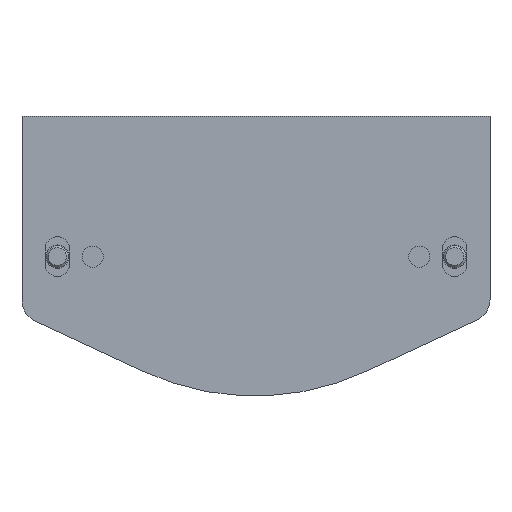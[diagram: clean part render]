
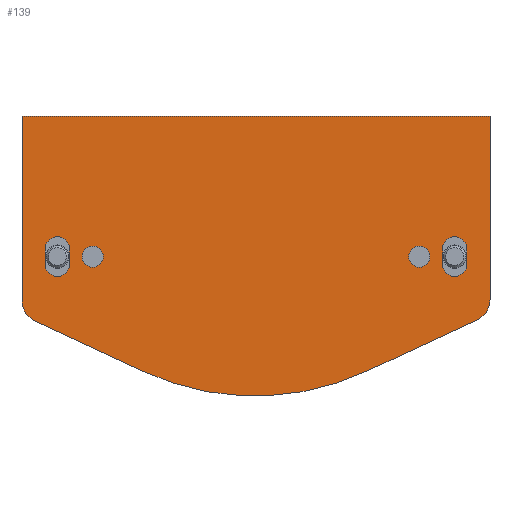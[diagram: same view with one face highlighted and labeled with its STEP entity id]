
A CAD part, front view. The second image highlights one B-rep face of the part: STEP entity #139.
In plain terms, the highlighted planar face has unit normal (0, -1, 0).
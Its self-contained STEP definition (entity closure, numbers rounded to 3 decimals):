
#139 = ADVANCED_FACE( '', ( #306, #307, #308, #309, #310 ), #311, .F. );
#306 = FACE_BOUND( '', #506, .T. );
#307 = FACE_BOUND( '', #507, .T. );
#308 = FACE_BOUND( '', #508, .T. );
#309 = FACE_BOUND( '', #509, .T. );
#310 = FACE_OUTER_BOUND( '', #510, .T. );
#311 = PLANE( '', #511 );
#506 = EDGE_LOOP( '', ( #1025 ) );
#507 = EDGE_LOOP( '', ( #1026 ) );
#508 = EDGE_LOOP( '', ( #1027, #1028, #1029, #1030 ) );
#509 = EDGE_LOOP( '', ( #1031, #1032, #1033, #1034 ) );
#510 = EDGE_LOOP( '', ( #1035, #1036, #1037, #1038, #1039, #1040, #1041, #1042, #1043, #1044 ) );
#511 = AXIS2_PLACEMENT_3D( '', #1045, #1046, #1047 );
#1025 = ORIENTED_EDGE( '', *, *, #1242, .T. );
#1026 = ORIENTED_EDGE( '', *, *, #1244, .T. );
#1027 = ORIENTED_EDGE( '', *, *, #1320, .T. );
#1028 = ORIENTED_EDGE( '', *, *, #1319, .T. );
#1029 = ORIENTED_EDGE( '', *, *, #1317, .T. );
#1030 = ORIENTED_EDGE( '', *, *, #1315, .T. );
#1031 = ORIENTED_EDGE( '', *, *, #1328, .T. );
#1032 = ORIENTED_EDGE( '', *, *, #1327, .T. );
#1033 = ORIENTED_EDGE( '', *, *, #1325, .T. );
#1034 = ORIENTED_EDGE( '', *, *, #1323, .T. );
#1035 = ORIENTED_EDGE( '', *, *, #1371, .T. );
#1036 = ORIENTED_EDGE( '', *, *, #1345, .F. );
#1037 = ORIENTED_EDGE( '', *, *, #1349, .F. );
#1038 = ORIENTED_EDGE( '', *, *, #1352, .F. );
#1039 = ORIENTED_EDGE( '', *, *, #1365, .T. );
#1040 = ORIENTED_EDGE( '', *, *, #1372, .F. );
#1041 = ORIENTED_EDGE( '', *, *, #1355, .F. );
#1042 = ORIENTED_EDGE( '', *, *, #1359, .F. );
#1043 = ORIENTED_EDGE( '', *, *, #1369, .F. );
#1044 = ORIENTED_EDGE( '', *, *, #1373, .F. );
#1045 = CARTESIAN_POINT( '', ( -53., 0., 31.8 ) );
#1046 = DIRECTION( '', ( 0., 1., 0. ) );
#1047 = DIRECTION( '', ( 0., 0., 1. ) );
#1242 = EDGE_CURVE( '', #1471, #1471, #1472, .T. );
#1244 = EDGE_CURVE( '', #1475, #1475, #1476, .T. );
#1315 = EDGE_CURVE( '', #1593, #1595, #1597, .T. );
#1317 = EDGE_CURVE( '', #1598, #1593, #1600, .T. );
#1319 = EDGE_CURVE( '', #1601, #1598, #1603, .T. );
#1320 = EDGE_CURVE( '', #1595, #1601, #1604, .T. );
#1323 = EDGE_CURVE( '', #1605, #1607, #1609, .T. );
#1325 = EDGE_CURVE( '', #1610, #1605, #1612, .T. );
#1327 = EDGE_CURVE( '', #1613, #1610, #1615, .T. );
#1328 = EDGE_CURVE( '', #1607, #1613, #1616, .T. );
#1345 = EDGE_CURVE( '', #1645, #1646, #1647, .T. );
#1349 = EDGE_CURVE( '', #1653, #1645, #1654, .T. );
#1352 = EDGE_CURVE( '', #1658, #1653, #1659, .T. );
#1355 = EDGE_CURVE( '', #1663, #1664, #1665, .T. );
#1359 = EDGE_CURVE( '', #1671, #1663, #1672, .T. );
#1365 = EDGE_CURVE( '', #1658, #1681, #1682, .T. );
#1369 = EDGE_CURVE( '', #1686, #1671, #1688, .T. );
#1371 = EDGE_CURVE( '', #1690, #1646, #1691, .T. );
#1372 = EDGE_CURVE( '', #1664, #1681, #1692, .T. );
#1373 = EDGE_CURVE( '', #1690, #1686, #1693, .T. );
#1471 = VERTEX_POINT( '', #1810 );
#1472 = CIRCLE( '', #1811, 2.4 );
#1475 = VERTEX_POINT( '', #1814 );
#1476 = CIRCLE( '', #1815, 2.4 );
#1593 = VERTEX_POINT( '', #1976 );
#1595 = VERTEX_POINT( '', #1979 );
#1597 = CIRCLE( '', #1982, 2.75 );
#1598 = VERTEX_POINT( '', #1983 );
#1600 = LINE( '', #1986, #1987 );
#1601 = VERTEX_POINT( '', #1988 );
#1603 = CIRCLE( '', #1991, 2.75 );
#1604 = LINE( '', #1992, #1993 );
#1605 = VERTEX_POINT( '', #1994 );
#1607 = VERTEX_POINT( '', #1997 );
#1609 = CIRCLE( '', #2000, 2.75 );
#1610 = VERTEX_POINT( '', #2001 );
#1612 = LINE( '', #2004, #2005 );
#1613 = VERTEX_POINT( '', #2006 );
#1615 = CIRCLE( '', #2009, 2.75 );
#1616 = LINE( '', #2010, #2011 );
#1645 = VERTEX_POINT( '', #2054 );
#1646 = VERTEX_POINT( '', #2055 );
#1647 = CIRCLE( '', #2056, 5. );
#1653 = VERTEX_POINT( '', #2064 );
#1654 = LINE( '', #2065, #2066 );
#1658 = VERTEX_POINT( '', #2072 );
#1659 = CIRCLE( '', #2073, 60. );
#1663 = VERTEX_POINT( '', #2078 );
#1664 = VERTEX_POINT( '', #2079 );
#1665 = LINE( '', #2080, #2081 );
#1671 = VERTEX_POINT( '', #2090 );
#1672 = CIRCLE( '', #2091, 5. );
#1681 = VERTEX_POINT( '', #2104 );
#1682 = LINE( '', #2105, #2106 );
#1686 = VERTEX_POINT( '', #2112 );
#1688 = LINE( '', #2115, #2116 );
#1690 = VERTEX_POINT( '', #2119 );
#1691 = LINE( '', #2120, #2121 );
#1692 = CIRCLE( '', #2122, 60. );
#1693 = LINE( '', #2123, #2124 );
#1810 = CARTESIAN_POINT( '', ( -34.6, 0., 0. ) );
#1811 = AXIS2_PLACEMENT_3D( '', #2252, #2253, #2254 );
#1814 = CARTESIAN_POINT( '', ( 39.4, 0., 0. ) );
#1815 = AXIS2_PLACEMENT_3D( '', #2258, #2259, #2260 );
#1976 = CARTESIAN_POINT( '', ( -42.25, 0., -1.75 ) );
#1979 = CARTESIAN_POINT( '', ( -47.75, 0., -1.75 ) );
#1982 = AXIS2_PLACEMENT_3D( '', #2379, #2380, #2381 );
#1983 = CARTESIAN_POINT( '', ( -42.25, 0., 1.75 ) );
#1986 = CARTESIAN_POINT( '', ( -42.25, 0., 1.75 ) );
#1987 = VECTOR( '', #2383, 1000. );
#1988 = CARTESIAN_POINT( '', ( -47.75, 0., 1.75 ) );
#1991 = AXIS2_PLACEMENT_3D( '', #2385, #2386, #2387 );
#1992 = CARTESIAN_POINT( '', ( -47.75, 0., -1.75 ) );
#1993 = VECTOR( '', #2388, 1000. );
#1994 = CARTESIAN_POINT( '', ( 47.75, 0., -1.75 ) );
#1997 = CARTESIAN_POINT( '', ( 42.25, 0., -1.75 ) );
#2000 = AXIS2_PLACEMENT_3D( '', #2391, #2392, #2393 );
#2001 = CARTESIAN_POINT( '', ( 47.75, 0., 1.75 ) );
#2004 = CARTESIAN_POINT( '', ( 47.75, 0., 1.75 ) );
#2005 = VECTOR( '', #2395, 1000. );
#2006 = CARTESIAN_POINT( '', ( 42.25, 0., 1.75 ) );
#2009 = AXIS2_PLACEMENT_3D( '', #2397, #2398, #2399 );
#2010 = CARTESIAN_POINT( '', ( 42.25, 0., -1.75 ) );
#2011 = VECTOR( '', #2400, 1000. );
#2054 = CARTESIAN_POINT( '', ( -50.113, 0., -14.518 ) );
#2055 = CARTESIAN_POINT( '', ( -53., 0., -9.987 ) );
#2056 = AXIS2_PLACEMENT_3D( '', #2421, #2422, #2423 );
#2064 = CARTESIAN_POINT( '', ( -25.855, 0., -25.83 ) );
#2065 = CARTESIAN_POINT( '', ( -25.855, 0., -25.83 ) );
#2066 = VECTOR( '', #2429, 1000. );
#2072 = CARTESIAN_POINT( '', ( -3.102, 0., -31.5 ) );
#2073 = AXIS2_PLACEMENT_3D( '', #2432, #2433, #2434 );
#2078 = CARTESIAN_POINT( '', ( 50.113, 0., -14.285 ) );
#2079 = CARTESIAN_POINT( '', ( 25.355, 0., -25.83 ) );
#2080 = CARTESIAN_POINT( '', ( 50.113, 0., -14.285 ) );
#2081 = VECTOR( '', #2439, 1000. );
#2090 = CARTESIAN_POINT( '', ( 53., 0., -9.754 ) );
#2091 = AXIS2_PLACEMENT_3D( '', #2443, #2444, #2445 );
#2104 = CARTESIAN_POINT( '', ( 2.602, 0., -31.5 ) );
#2105 = CARTESIAN_POINT( '', ( -53., 0., -31.5 ) );
#2106 = VECTOR( '', #2453, 1000. );
#2112 = CARTESIAN_POINT( '', ( 53., 0., 31.8 ) );
#2115 = CARTESIAN_POINT( '', ( 53., 0., 31.8 ) );
#2116 = VECTOR( '', #2457, 1000. );
#2119 = CARTESIAN_POINT( '', ( -53., 0., 31.8 ) );
#2120 = CARTESIAN_POINT( '', ( -53., 0., 31.8 ) );
#2121 = VECTOR( '', #2459, 1000. );
#2122 = AXIS2_PLACEMENT_3D( '', #2460, #2461, #2462 );
#2123 = CARTESIAN_POINT( '', ( -53., 0., 31.8 ) );
#2124 = VECTOR( '', #2463, 1000. );
#2252 = CARTESIAN_POINT( '', ( -37., 0., 0. ) );
#2253 = DIRECTION( '', ( 0., 1., 0. ) );
#2254 = DIRECTION( '', ( 1., 0., 0. ) );
#2258 = CARTESIAN_POINT( '', ( 37., 0., 0. ) );
#2259 = DIRECTION( '', ( 0., 1., 0. ) );
#2260 = DIRECTION( '', ( 1., 0., 0. ) );
#2379 = CARTESIAN_POINT( '', ( -45., 0., -1.75 ) );
#2380 = DIRECTION( '', ( 0., 1., 0. ) );
#2381 = DIRECTION( '', ( 1., 0., 0. ) );
#2383 = DIRECTION( '', ( 0., 0., -1. ) );
#2385 = CARTESIAN_POINT( '', ( -45., 0., 1.75 ) );
#2386 = DIRECTION( '', ( 0., 1., 0. ) );
#2387 = DIRECTION( '', ( 1., 0., 0. ) );
#2388 = DIRECTION( '', ( 0., 0., 1. ) );
#2391 = CARTESIAN_POINT( '', ( 45., 0., -1.75 ) );
#2392 = DIRECTION( '', ( 0., 1., 0. ) );
#2393 = DIRECTION( '', ( 1., 0., 0. ) );
#2395 = DIRECTION( '', ( 0., 0., -1. ) );
#2397 = CARTESIAN_POINT( '', ( 45., 0., 1.75 ) );
#2398 = DIRECTION( '', ( 0., 1., 0. ) );
#2399 = DIRECTION( '', ( 1., 0., 0. ) );
#2400 = DIRECTION( '', ( 0., 0., 1. ) );
#2421 = CARTESIAN_POINT( '', ( -48., 0., -9.987 ) );
#2422 = DIRECTION( '', ( 0., 1., 0. ) );
#2423 = DIRECTION( '', ( 1., 0., 0. ) );
#2429 = DIRECTION( '', ( -0.906, 0., 0.423 ) );
#2432 = CARTESIAN_POINT( '', ( -0.25, 0., 28.432 ) );
#2433 = DIRECTION( '', ( 0., 1., 0. ) );
#2434 = DIRECTION( '', ( 1., 0., 0. ) );
#2439 = DIRECTION( '', ( -0.906, 0., -0.423 ) );
#2443 = CARTESIAN_POINT( '', ( 48., 0., -9.754 ) );
#2444 = DIRECTION( '', ( 0., 1., 0. ) );
#2445 = DIRECTION( '', ( 1., 0., 0. ) );
#2453 = DIRECTION( '', ( 1., 0., 0. ) );
#2457 = DIRECTION( '', ( 0., 0., -1. ) );
#2459 = DIRECTION( '', ( 0., 0., -1. ) );
#2460 = CARTESIAN_POINT( '', ( -0.25, 0., 28.432 ) );
#2461 = DIRECTION( '', ( 0., 1., 0. ) );
#2462 = DIRECTION( '', ( 1., 0., 0. ) );
#2463 = DIRECTION( '', ( 1., 0., 0. ) );
